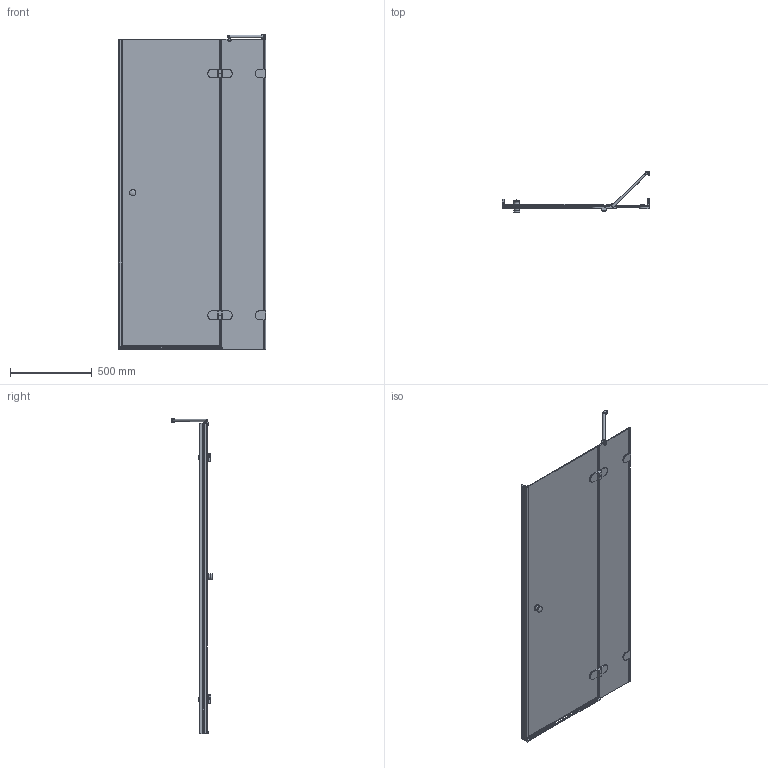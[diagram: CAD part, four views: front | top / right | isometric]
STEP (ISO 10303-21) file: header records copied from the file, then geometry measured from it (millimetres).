
FILE_DESCRIPTION(/* description */ (''),/* implementation_level */ '2;1');
FILE_NAME(/* name */ 'D:\4\LUX DOOR GK-002A\LUX DOOR GK-002A правая модель\LUX DOOR GK-002A ПРАВАЯ-3D.stp',/* time_stamp */ '2017-09-22T15:21:44+03:00',/* author */ ('ChechurovS'),/* organization */ (''),/* preprocessor_version */ 'ST-DEVELOPER v15.2',/* originating_system */ 'Autodesk Inventor 2014',/* authorisation */ '');
FILE_SCHEMA (('CONFIG_CONTROL_DESIGN'));
Length unit declared in the file: millimetre
Products named in the file (1): LUX DOOR GK-002A ПРАВАЯ-3D
Bounding box: 900.98 x 254.4 x 1931.5 mm (x, y, z)
Volume: 11515650 mm3; surface area: 3951083.1 mm2
Topology: 4 solids, 6 shells, 640 faces, 1589 edges, 984 vertices
Faces by surface type: plane 439, cylinder 168, torus 16, bspline 8, sphere 7, cone 2
Full cylindrical faces by diameter (mm): 12 x1, 15 x1, 20 x2, 26 x1, 30 x2, 35 x2, 38 x4, 40 x2
Entity records: 20123 total; most frequent: CARTESIAN_POINT 4327, ORIENTED_EDGE 3104, DIRECTION 3104, EDGE_CURVE 1549, LINE 1140, VECTOR 1140, AXIS2_PLACEMENT_3D 982, VERTEX_POINT 972
